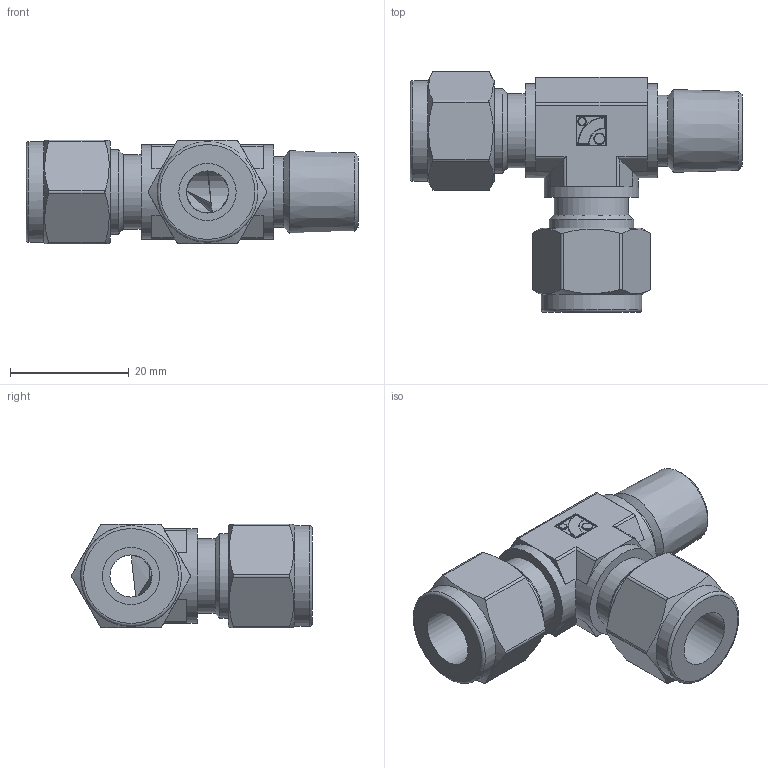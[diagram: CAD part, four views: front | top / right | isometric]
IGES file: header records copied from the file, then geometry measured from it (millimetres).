
Global section: file name: No Iges File Name specified; native system: Autodesk Inventor 2012; preprocessor: AutoDesk Inventor Iges Exporter R2012; author: 硅己绕,, ; organization: 11; date: 20150815.154810; units: millimetre
Bounding box: 56.02 x 40.65 x 17.5 mm (x, y, z)
Volume: 11844.1 mm3; surface area: 7034.5 mm2
Topology: 1 solids, 1 shells, 132 faces, 307 edges, 189 vertices
Faces by surface type: plane 60, cylinder 42, revolution 15, cone 9, torus 6
Full cylindrical faces by diameter (mm): 1.35 x1, 1.8 x1, 12 x1, 12.5 x2, 14.28 x2, 15.88 x3, 17 x2
